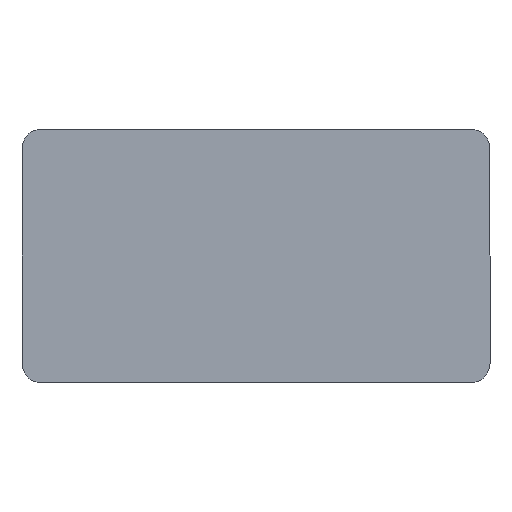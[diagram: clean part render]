
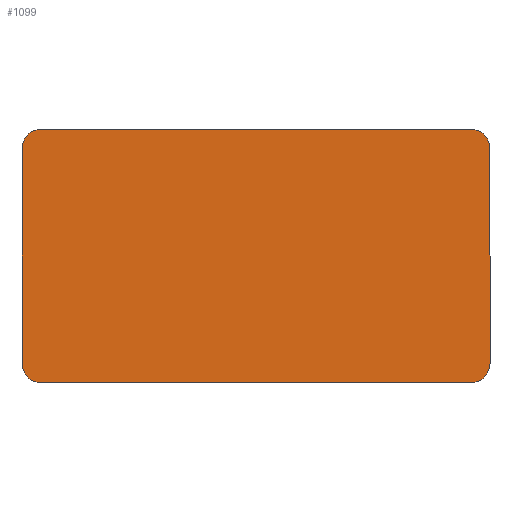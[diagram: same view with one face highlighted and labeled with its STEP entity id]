
A CAD part, front view. The second image highlights one B-rep face of the part: STEP entity #1099.
In plain terms, the highlighted planar face has unit normal (0, -1, 0).
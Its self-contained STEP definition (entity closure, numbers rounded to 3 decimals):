
#3 = DIRECTION ( 'NONE',  ( 0., 1., 0. ) ) ;
#15 = ORIENTED_EDGE ( 'NONE', *, *, #398, .F. ) ;
#26 = EDGE_CURVE ( 'NONE', #1123, #506, #255, .T. ) ;
#80 = EDGE_CURVE ( 'NONE', #174, #667, #344, .T. ) ;
#111 = DIRECTION ( 'NONE',  ( -1., 0., 0. ) ) ;
#174 = VERTEX_POINT ( 'NONE', #694 ) ;
#233 = VECTOR ( 'NONE', #111, 1000. ) ;
#243 = ORIENTED_EDGE ( 'NONE', *, *, #621, .F. ) ;
#255 = CIRCLE ( 'NONE', #988, 50. ) ;
#298 = AXIS2_PLACEMENT_3D ( 'NONE', #409, #1049, #1277 ) ;
#307 = CARTESIAN_POINT ( 'NONE',  ( 550., 0., 325. ) ) ;
#327 = LINE ( 'NONE', #406, #689 ) ;
#344 = CIRCLE ( 'NONE', #1053, 50. ) ;
#398 = EDGE_CURVE ( 'NONE', #174, #919, #662, .T. ) ;
#406 = CARTESIAN_POINT ( 'NONE',  ( -600., 0., 325. ) ) ;
#409 = CARTESIAN_POINT ( 'NONE',  ( -550., 0., -275. ) ) ;
#416 = ORIENTED_EDGE ( 'NONE', *, *, #1209, .T. ) ;
#430 = DIRECTION ( 'NONE',  ( 0., 0., 1. ) ) ;
#472 = ORIENTED_EDGE ( 'NONE', *, *, #883, .F. ) ;
#492 = DIRECTION ( 'NONE',  ( 0., -1., 0. ) ) ;
#504 = ORIENTED_EDGE ( 'NONE', *, *, #80, .T. ) ;
#506 = VERTEX_POINT ( 'NONE', #1291 ) ;
#558 = CARTESIAN_POINT ( 'NONE',  ( -600., 0., -325. ) ) ;
#570 = DIRECTION ( 'NONE',  ( 0., 0., 1. ) ) ;
#575 = VECTOR ( 'NONE', #703, 1000. ) ;
#587 = CARTESIAN_POINT ( 'NONE',  ( 550., 0., -275. ) ) ;
#603 = VERTEX_POINT ( 'NONE', #1088 ) ;
#621 = EDGE_CURVE ( 'NONE', #1257, #506, #693, .T. ) ;
#640 = CIRCLE ( 'NONE', #820, 50. ) ;
#658 = PLANE ( 'NONE',  #714 ) ;
#662 = LINE ( 'NONE', #558, #233 ) ;
#667 = VERTEX_POINT ( 'NONE', #1357 ) ;
#688 = CARTESIAN_POINT ( 'NONE',  ( -600., 0., -275. ) ) ;
#689 = VECTOR ( 'NONE', #1186, 1000. ) ;
#693 = LINE ( 'NONE', #1236, #575 ) ;
#694 = CARTESIAN_POINT ( 'NONE',  ( 550., 0., -325. ) ) ;
#703 = DIRECTION ( 'NONE',  ( 0., 0., 1. ) ) ;
#713 = CIRCLE ( 'NONE', #298, 50. ) ;
#714 = AXIS2_PLACEMENT_3D ( 'NONE', #1084, #3, #430 ) ;
#717 = EDGE_CURVE ( 'NONE', #1123, #1292, #327, .T. ) ;
#765 = ORIENTED_EDGE ( 'NONE', *, *, #26, .T. ) ;
#811 = ORIENTED_EDGE ( 'NONE', *, *, #915, .T. ) ;
#820 = AXIS2_PLACEMENT_3D ( 'NONE', #1240, #492, #906 ) ;
#833 = DIRECTION ( 'NONE',  ( 0., 0., -1. ) ) ;
#836 = CARTESIAN_POINT ( 'NONE',  ( -550., 0., 275. ) ) ;
#883 = EDGE_CURVE ( 'NONE', #603, #667, #957, .T. ) ;
#906 = DIRECTION ( 'NONE',  ( 0., 0., 1. ) ) ;
#915 = EDGE_CURVE ( 'NONE', #1257, #919, #713, .T. ) ;
#919 = VERTEX_POINT ( 'NONE', #943 ) ;
#943 = CARTESIAN_POINT ( 'NONE',  ( -550., 0., -325. ) ) ;
#957 = LINE ( 'NONE', #1167, #1360 ) ;
#988 = AXIS2_PLACEMENT_3D ( 'NONE', #836, #1059, #1278 ) ;
#1049 = DIRECTION ( 'NONE',  ( 0., -1., 0. ) ) ;
#1053 = AXIS2_PLACEMENT_3D ( 'NONE', #587, #1096, #570 ) ;
#1059 = DIRECTION ( 'NONE',  ( 0., -1., 0. ) ) ;
#1084 = CARTESIAN_POINT ( 'NONE',  ( 0., 0., 0. ) ) ;
#1088 = CARTESIAN_POINT ( 'NONE',  ( 600., 0., 275. ) ) ;
#1096 = DIRECTION ( 'NONE',  ( 0., -1., 0. ) ) ;
#1099 = ADVANCED_FACE ( 'NONE', ( #1293 ), #658, .F. ) ;
#1123 = VERTEX_POINT ( 'NONE', #1171 ) ;
#1139 = ORIENTED_EDGE ( 'NONE', *, *, #717, .F. ) ;
#1167 = CARTESIAN_POINT ( 'NONE',  ( 600., 0., -325. ) ) ;
#1171 = CARTESIAN_POINT ( 'NONE',  ( -550., 0., 325. ) ) ;
#1186 = DIRECTION ( 'NONE',  ( 1., 0., 0. ) ) ;
#1197 = EDGE_LOOP ( 'NONE', ( #243, #811, #15, #504, #472, #416, #1139, #765 ) ) ;
#1209 = EDGE_CURVE ( 'NONE', #603, #1292, #640, .T. ) ;
#1236 = CARTESIAN_POINT ( 'NONE',  ( -600., 0., -325. ) ) ;
#1240 = CARTESIAN_POINT ( 'NONE',  ( 550., 0., 275. ) ) ;
#1257 = VERTEX_POINT ( 'NONE', #688 ) ;
#1277 = DIRECTION ( 'NONE',  ( 0., 0., 1. ) ) ;
#1278 = DIRECTION ( 'NONE',  ( 0., 0., 1. ) ) ;
#1291 = CARTESIAN_POINT ( 'NONE',  ( -600., 0., 275. ) ) ;
#1292 = VERTEX_POINT ( 'NONE', #307 ) ;
#1293 = FACE_OUTER_BOUND ( 'NONE', #1197, .T. ) ;
#1357 = CARTESIAN_POINT ( 'NONE',  ( 600., 0., -275. ) ) ;
#1360 = VECTOR ( 'NONE', #833, 1000. ) ;
